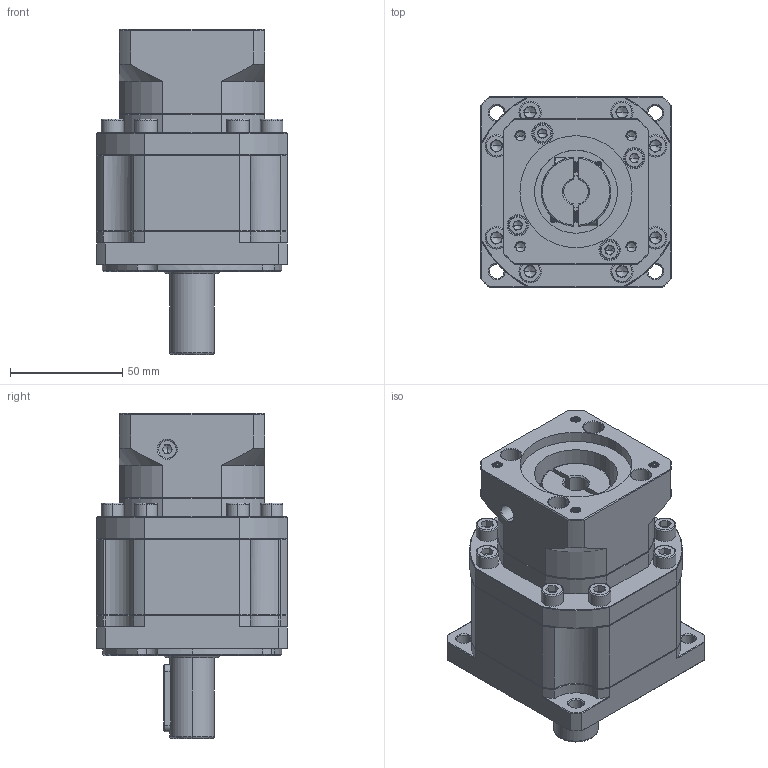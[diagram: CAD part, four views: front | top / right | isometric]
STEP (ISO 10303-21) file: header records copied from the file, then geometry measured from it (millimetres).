
FILE_DESCRIPTION (( 'STEP AP214' ), '1' );
FILE_NAME ('ZB090-D20-L2-P2-11-50-70-M5.step', '2023-08-18T13:32:23', ( '' ), ( '' ), 'SwSTEP 2.0', 'SolidWorks 2016', '' );
FILE_SCHEMA (( 'AUTOMOTIVE_DESIGN' ));
Length unit declared in the file: millimetre
Products named in the file (1): ZB090-D20-L2-P2-11-50-70-M5
Bounding box: 85 x 85 x 145 mm (x, y, z)
Volume: 542950.1 mm3; surface area: 76865.4 mm2
Topology: 6 solids, 6 shells, 2361 faces, 6275 edges, 4010 vertices
Faces by surface type: plane 1185, bspline 426, cylinder 406, cone 322, torus 22
Entity records: 125958 total; most frequent: CARTESIAN_POINT 44658, ORIENTED_EDGE 12458, DIRECTION 9937, EDGE_CURVE 6229, VERTEX_POINT 4010, VECTOR 3949, LINE 3949, AXIS2_PLACEMENT_3D 2994
